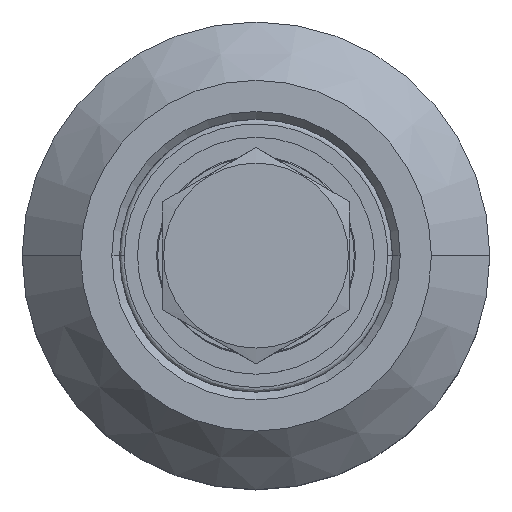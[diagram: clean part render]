
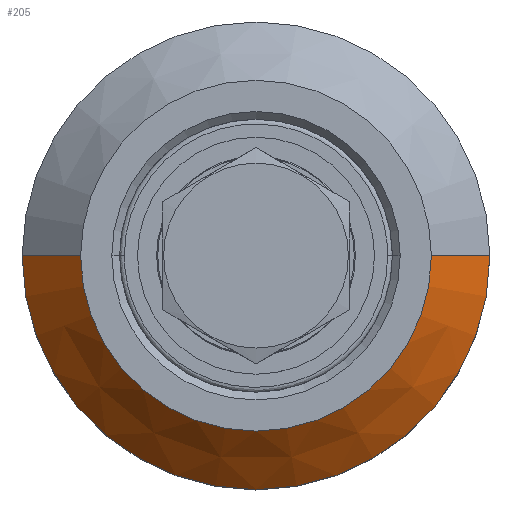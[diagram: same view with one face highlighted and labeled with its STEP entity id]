
A CAD part, top view. The second image highlights one B-rep face of the part: STEP entity #205.
In plain terms, the highlighted conical face has half-angle 45 degrees and reference radius 30 mm.
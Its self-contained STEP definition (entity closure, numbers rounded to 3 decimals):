
#205 = ADVANCED_FACE ( 'NONE', ( #754 ), #743, .T. ) ;
#356 = LINE ( 'NONE', #2977, #492 ) ;
#391 = LINE ( 'NONE', #2980, #490 ) ;
#472 = CIRCLE ( 'NONE', #4454, 22.5 ) ;
#490 = VECTOR ( 'NONE', #2979, 1000. ) ;
#492 = VECTOR ( 'NONE', #2978, 1000. ) ;
#506 = CIRCLE ( 'NONE', #4069, 30. ) ;
#743 = CONICAL_SURFACE ( 'NONE', #4410, 30., 0.785 ) ;
#754 = FACE_OUTER_BOUND ( 'NONE', #4586, .T. ) ;
#2121 = DIRECTION ( 'NONE',  ( 0., 0., -1. ) ) ;
#2130 = CARTESIAN_POINT ( 'NONE',  ( 0., 0., -7.5 ) ) ;
#2149 = DIRECTION ( 'NONE',  ( -1., 0., 0. ) ) ;
#2956 = CARTESIAN_POINT ( 'NONE',  ( 0., 0., -7.5 ) ) ;
#2957 = DIRECTION ( 'NONE',  ( 0., 0., -1. ) ) ;
#2958 = DIRECTION ( 'NONE',  ( 1., 0., 0. ) ) ;
#2977 = CARTESIAN_POINT ( 'NONE',  ( 30., 0., -7.5 ) ) ;
#2978 = DIRECTION ( 'NONE',  ( 0.707, 0., -0.707 ) ) ;
#2979 = DIRECTION ( 'NONE',  ( -0.707, 0., -0.707 ) ) ;
#2980 = CARTESIAN_POINT ( 'NONE',  ( -30., 0., -7.5 ) ) ;
#3293 = CARTESIAN_POINT ( 'NONE',  ( 0., 0., 0. ) ) ;
#3294 = DIRECTION ( 'NONE',  ( 0., 0., -1. ) ) ;
#3295 = DIRECTION ( 'NONE',  ( -1., 0., 0. ) ) ;
#3825 = ORIENTED_EDGE ( 'NONE', *, *, #4264, .T. ) ;
#3827 = ORIENTED_EDGE ( 'NONE', *, *, #4261, .F. ) ;
#3829 = ORIENTED_EDGE ( 'NONE', *, *, #4252, .F. ) ;
#3830 = ORIENTED_EDGE ( 'NONE', *, *, #4320, .T. ) ;
#4069 = AXIS2_PLACEMENT_3D ( 'NONE', #2956, #2957, #2958 ) ;
#4252 = EDGE_CURVE ( 'NONE', #5019, #5022, #506, .T. ) ;
#4261 = EDGE_CURVE ( 'NONE', #5016, #5019, #356, .T. ) ;
#4264 = EDGE_CURVE ( 'NONE', #4995, #5022, #391, .T. ) ;
#4320 = EDGE_CURVE ( 'NONE', #5016, #4995, #472, .T. ) ;
#4410 = AXIS2_PLACEMENT_3D ( 'NONE', #2130, #2121, #2149 ) ;
#4454 = AXIS2_PLACEMENT_3D ( 'NONE', #3293, #3294, #3295 ) ;
#4586 = EDGE_LOOP ( 'NONE', ( #3827, #3830, #3825, #3829 ) ) ;
#4995 = VERTEX_POINT ( 'NONE', #5772 ) ;
#5016 = VERTEX_POINT ( 'NONE', #5799 ) ;
#5019 = VERTEX_POINT ( 'NONE', #5802 ) ;
#5022 = VERTEX_POINT ( 'NONE', #5805 ) ;
#5772 = CARTESIAN_POINT ( 'NONE',  ( -22.5, 0., 0. ) ) ;
#5799 = CARTESIAN_POINT ( 'NONE',  ( 22.5, 0., 0. ) ) ;
#5802 = CARTESIAN_POINT ( 'NONE',  ( 30., 0., -7.5 ) ) ;
#5805 = CARTESIAN_POINT ( 'NONE',  ( -30., 0., -7.5 ) ) ;
